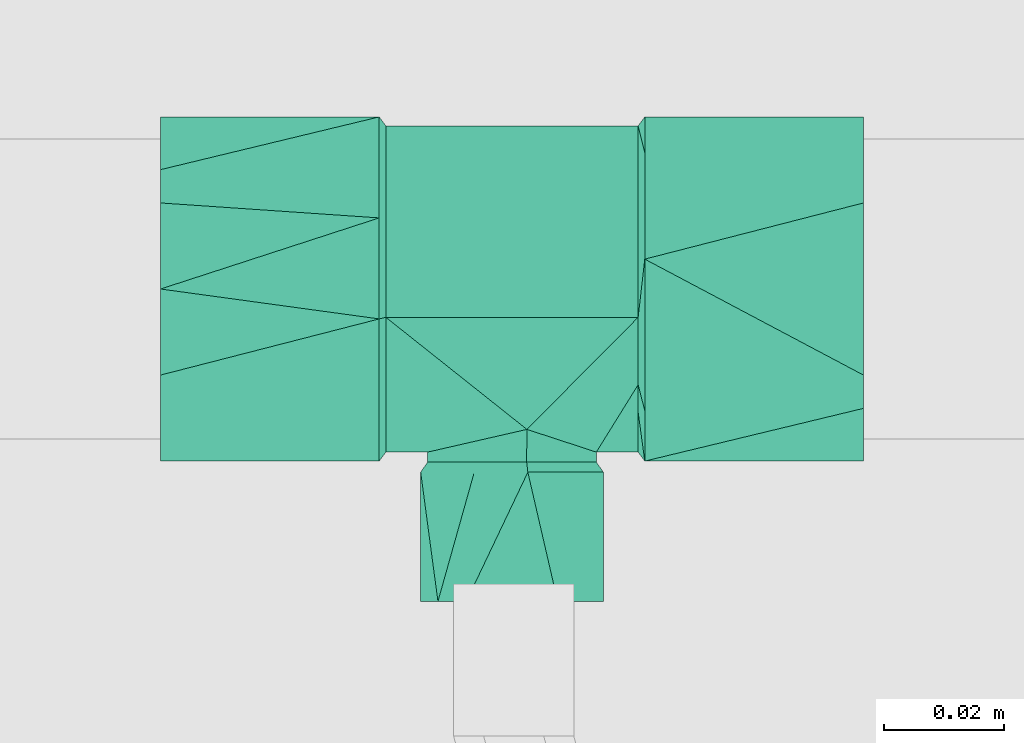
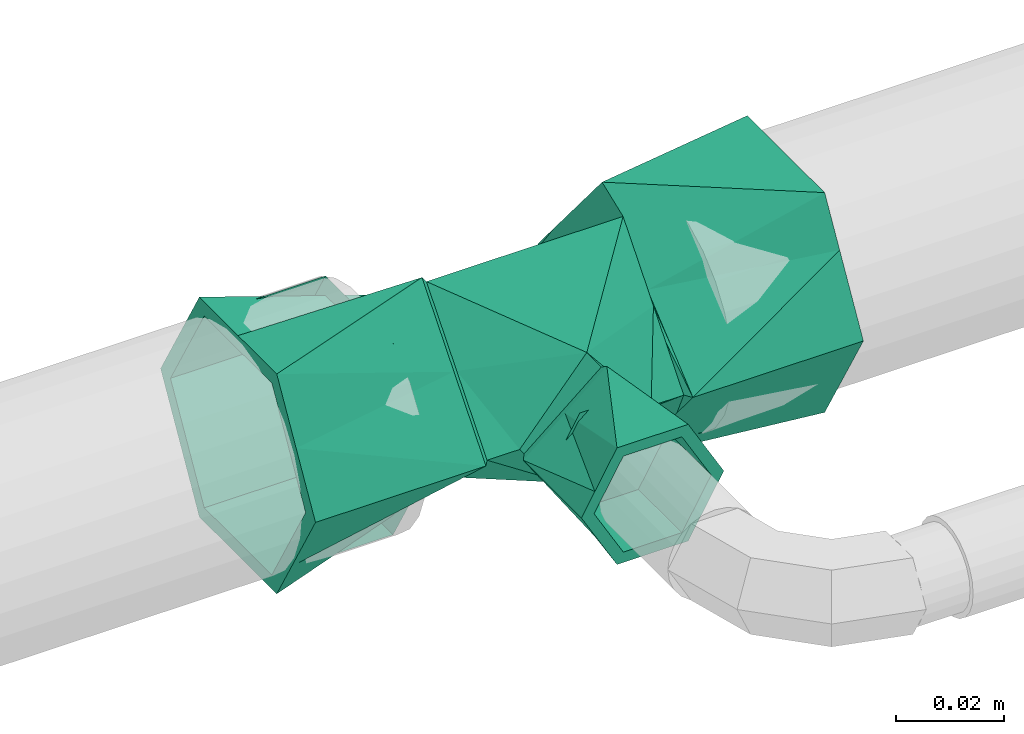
# One storey, part 95 of 166: 1 flow fitting.
"""IFC2X3 building model written with IfcOpenShell, lengths in metres."""

from ifc_helpers import new_model, entity, si_unit, converted_unit, direction, frame, origin, place, context, subcontext, project, spatial, faceted_brep, source, transform, mapped, material, type_object, type_shapes, element, save


model = new_model("IFC2X3")

# Units and contexts
model_context = context("Model", 3, precision=1e-05, world=origin(), true_north=direction((6.123233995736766e-17, 1.0)))
body_context = subcontext(model_context, "Body", "Model", "MODEL_VIEW")
ifc_project = project(units=[si_unit("LENGTHUNIT", "METRE"), converted_unit("PLANEANGLEUNIT", "DEGREE", entity("IfcPlaneAngleMeasure", 0.017453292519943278), si_unit("PLANEANGLEUNIT", "RADIAN"), dimensions=[0, 0, 0, 0, 0, 0, 0]), si_unit("AREAUNIT", "SQUARE_METRE")], contexts=[model_context])

# Site, building, storey
site_placement = place(None, origin())
site = spatial("IfcSite", under=ifc_project, at=site_placement, Name="Default", CompositionType="ELEMENT")
building_placement = place(site_placement, origin())
building = spatial("IfcBuilding", under=site, at=building_placement, Name="CASA DE ACOLHIDA PARA IDOSOS", CompositionType="ELEMENT")
storey_placement = place(building_placement, frame((0.0, 0.0, -1.7499999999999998)))
storey = spatial("IfcBuildingStorey", under=building, at=storey_placement, Name="IMPLANTAÇÃO DRENAGEM", CompositionType="ELEMENT", Elevation=-1.7499999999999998)

# Flow fitting
ifc_material = material(Name="PVC Branco")
pipe_fitting_type = type_object("IfcPipeFittingType", Name="AF_Roscavel_Te_Reducao:Standard", PredefinedType="NOTDEFINED", material=ifc_material)
shared_shape = source(origin(), body_context, "Body", "Brep", [
    faceted_brep([(-0.022099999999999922, 0.022730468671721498, -0.007053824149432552), (-0.022099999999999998, 0.028649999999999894, 0.0), (-0.021, 0.027149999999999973, 0.0), (-0.02099999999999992, 0.019184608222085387, -0.006684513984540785), (-0.020999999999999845, 0.011219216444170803, -0.013369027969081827), (-0.022099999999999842, 0.0168109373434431, -0.014107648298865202), (-0.020999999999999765, 0.0032538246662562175, -0.02005354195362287), (-0.022099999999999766, 0.010891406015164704, -0.02116147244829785), (-0.020999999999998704, -0.015930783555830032, -0.013369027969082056), (-0.022099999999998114, -0.020244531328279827, -0.007053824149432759), (-0.022099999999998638, -0.01183906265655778, -0.01410764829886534), (-0.020999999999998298, -0.02051095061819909, -0.007911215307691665), (-0.02209999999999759, -0.02865000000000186, 0.0), (-0.020999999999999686, -0.004711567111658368, -0.02673805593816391), (-0.02209999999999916, -0.0034335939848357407, -0.021161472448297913), (-0.022099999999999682, 0.004971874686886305, -0.028215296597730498), (-0.020999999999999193, -0.010321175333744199, -0.02005354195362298), (-0.02099999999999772, -0.027150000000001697, 0.0), (-0.02210000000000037, -0.022732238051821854, 0.007053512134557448), (-0.021000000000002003, -0.019182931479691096, 0.006684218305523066), (-0.021000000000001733, -0.011215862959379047, 0.013368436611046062), (-0.022100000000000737, -0.0168144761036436, 0.014107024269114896), (-0.021000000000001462, -0.0032487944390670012, 0.020052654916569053), (-0.022100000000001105, -0.010896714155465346, 0.021160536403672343), (-0.022100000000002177, 0.020242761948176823, 0.007053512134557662), (-0.02100000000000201, 0.021542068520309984, 0.006684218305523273), (-0.022100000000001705, 0.0034282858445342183, 0.021160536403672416), (-0.021000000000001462, 0.010326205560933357, 0.020052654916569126), (-0.022100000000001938, 0.01183552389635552, 0.014107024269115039), (-0.021000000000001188, 0.004718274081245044, 0.02673687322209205), (-0.022100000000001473, -0.004978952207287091, 0.028214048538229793), (-0.021000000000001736, 0.01593413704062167, 0.013368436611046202), (-0.02099999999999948, 0.018449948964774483, 0.010369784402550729), (0.021, 0.027149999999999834, 0.0), (0.021000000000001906, 0.004718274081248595, 0.026736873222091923), (0.021000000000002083, 0.010326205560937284, 0.02005265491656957), (0.021000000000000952, 0.015934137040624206, 0.013368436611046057), (0.021000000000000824, 0.020511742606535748, 0.007912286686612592), (0.021, -0.027150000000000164, 0.0), (0.0024774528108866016, -0.023369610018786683, 0.013819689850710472), (0.008258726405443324, -0.025259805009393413, 0.006909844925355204), (0.014040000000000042, -0.027150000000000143, 0.0), (-0.014039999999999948, -0.02715000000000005, 0.0), (-0.008913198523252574, -0.02597661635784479, 0.004289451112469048), (-0.0057812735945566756, -0.02525980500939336, 0.0069098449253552), (0.021000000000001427, -0.01918293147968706, 0.006684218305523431), (0.021000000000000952, -0.011215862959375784, 0.013368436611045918), (0.02100000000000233, -0.00324879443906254, 0.020052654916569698), (0.02099999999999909, 0.019607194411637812, -0.006329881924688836), (0.020999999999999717, 0.011219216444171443, -0.013369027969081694), (0.02099999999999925, 0.003253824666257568, -0.02005354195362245), (0.020999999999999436, -0.004711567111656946, -0.02673805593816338), (-0.0024814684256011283, -0.023370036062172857, -0.013818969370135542), (0.020999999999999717, -0.015930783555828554, -0.013369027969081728), (0.008912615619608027, -0.025976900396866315, -0.004288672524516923), (0.005779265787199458, -0.025260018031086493, -0.006909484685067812), (-0.00826073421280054, -0.025260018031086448, -0.006909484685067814), (0.020999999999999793, -0.020510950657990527, -0.007911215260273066), (0.020999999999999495, -0.010321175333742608, -0.020053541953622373), (0.02210000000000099, 0.01681093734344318, 0.014107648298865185), (0.022100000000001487, 0.01089140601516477, 0.021161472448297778), (0.022100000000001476, -0.012730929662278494, 0.013359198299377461), (0.022100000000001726, -0.003879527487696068, 0.020787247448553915), (0.022100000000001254, -0.020690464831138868, 0.006679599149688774), (0.022100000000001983, 0.004971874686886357, 0.02821529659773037), (0.0221, 0.028650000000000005, 0.0), (0.022100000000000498, 0.022730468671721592, 0.007053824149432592), (0.022100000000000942, -0.011839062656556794, 0.014107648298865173), (0.022100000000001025, -0.02864999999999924, 0.0), (0.022099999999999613, -0.009809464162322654, -0.022456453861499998), (0.022099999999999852, -0.021644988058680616, -0.008349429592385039), (0.02209999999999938, 0.0034282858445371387, -0.02116053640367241), (0.022099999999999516, -0.004978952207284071, -0.028214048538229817), (0.02209999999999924, 0.011835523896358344, -0.014107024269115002), (0.0220999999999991, 0.02024276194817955, -0.0070535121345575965), (0.02209999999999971, -0.014639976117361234, -0.01669885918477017), (0.022100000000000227, -0.016814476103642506, -0.014107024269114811), (-0.058500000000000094, -0.014325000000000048, -0.024811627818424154), (-0.058500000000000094, -0.025, 0.0), (-0.058500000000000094, -0.01997114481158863, -0.00871023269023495), (-0.0585000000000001, -0.019870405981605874, -0.015206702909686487), (-0.058500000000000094, -0.012500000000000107, -0.021650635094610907), (-0.058500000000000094, 0.0, -0.02165063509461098), (-0.058500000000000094, 0.012499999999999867, -0.021650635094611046), (-0.0585000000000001, 0.0, -0.024811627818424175), (-0.058500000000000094, -0.028650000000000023, 0.0), (-0.0585000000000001, -0.018750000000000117, 0.01082531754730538), (-0.058500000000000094, -0.012500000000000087, 0.021650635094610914), (-0.0585000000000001, -0.021487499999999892, 0.012405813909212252), (-0.058500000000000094, -0.014324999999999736, 0.02481162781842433), (-0.058500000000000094, 0.0, 0.021650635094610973), (-0.058500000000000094, 0.012499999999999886, 0.021650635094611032), (-0.0585000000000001, 0.0, 0.02481162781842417), (-0.058500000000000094, 0.014325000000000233, 0.024811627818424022), (-0.0585000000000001, 0.019870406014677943, 0.015206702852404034), (-0.058500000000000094, 0.02864999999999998, 0.0), (-0.058500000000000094, 0.019971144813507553, 0.00871023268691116), (-0.058500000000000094, 0.025, 0.0), (-0.0585000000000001, 0.021487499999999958, -0.012405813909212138), (-0.058500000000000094, 0.014324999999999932, -0.0248116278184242), (-0.058500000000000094, 0.018749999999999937, -0.010825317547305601), (0.0585000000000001, 0.021487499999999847, 0.012405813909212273), (0.058500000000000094, 0.028650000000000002, 0.0), (0.058500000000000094, -0.028650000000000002, 0.0), (0.0585000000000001, -0.01987040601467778, 0.015206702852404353), (0.0585000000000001, -0.021487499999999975, -0.012405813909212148), (0.0585000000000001, 0.019870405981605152, -0.015206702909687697), (0.058500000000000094, 0.014325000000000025, -0.024811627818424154), (0.058500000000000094, 0.024999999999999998, 0.0), (0.058500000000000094, 0.019971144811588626, -0.00871023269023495), (0.058500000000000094, 0.012500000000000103, -0.021650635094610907), (0.058500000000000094, 0.0, -0.02165063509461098), (0.058500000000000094, -0.012499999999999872, -0.021650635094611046), (0.0585000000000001, 0.0, -0.024811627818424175), (0.0585000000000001, 0.01875000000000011, 0.01082531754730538), (0.058500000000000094, 0.012500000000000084, 0.021650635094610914), (0.058500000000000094, 0.014324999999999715, 0.02481162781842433), (0.058500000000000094, 0.0, 0.021650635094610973), (0.058500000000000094, -0.012499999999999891, 0.021650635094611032), (0.0585000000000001, 0.0, 0.02481162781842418), (0.058500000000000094, -0.014325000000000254, 0.024811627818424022), (0.058500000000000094, -0.019971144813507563, 0.00871023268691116), (0.058500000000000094, -0.025000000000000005, 0.0), (0.058500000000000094, -0.014324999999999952, -0.0248116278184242), (0.058500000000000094, -0.018749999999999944, -0.010825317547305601), (-0.032600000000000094, -0.025, 0.0), (-0.032600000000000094, -0.019971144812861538, 0.00871023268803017), (-0.032600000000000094, -0.012500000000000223, 0.021650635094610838), (-0.032600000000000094, 0.0, 0.021650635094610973), (-0.032600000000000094, 0.012499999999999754, 0.02165063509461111), (-0.032600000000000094, 0.018749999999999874, 0.010825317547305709), (-0.032600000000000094, 0.025, 0.0), (-0.032600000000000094, 0.019971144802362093, -0.008710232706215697), (-0.032600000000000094, 0.012500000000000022, -0.021650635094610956), (-0.032600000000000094, 0.0, -0.02165063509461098), (-0.032600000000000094, -0.012499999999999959, -0.021650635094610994), (-0.032600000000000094, -0.018749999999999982, -0.010825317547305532), (0.03260000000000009, -0.025, 0.0), (0.032600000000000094, -0.018749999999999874, 0.010825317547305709), (0.032600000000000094, -0.012499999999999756, 0.02165063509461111), (0.032600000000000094, 0.0, 0.021650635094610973), (0.032600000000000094, 0.012500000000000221, 0.021650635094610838), (0.032600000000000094, 0.019971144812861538, 0.00871023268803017), (0.032600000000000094, 0.025, 0.0), (0.032600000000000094, 0.018749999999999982, -0.010825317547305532), (0.032600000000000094, 0.012499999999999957, -0.021650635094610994), (0.032600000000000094, 0.0, -0.02165063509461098), (0.032600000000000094, -0.012500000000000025, -0.021650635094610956), (0.032600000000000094, -0.019971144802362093, -0.008710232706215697), (0.012500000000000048, -0.03589999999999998, 0.0), (0.006250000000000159, -0.035899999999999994, 0.010825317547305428), (-0.0062499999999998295, -0.03590000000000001, 0.010825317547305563), (-0.012499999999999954, -0.03590000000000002, 0.0), (-0.006249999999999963, -0.03590000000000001, -0.010825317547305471), (0.006250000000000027, -0.035899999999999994, -0.01082531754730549), (0.012500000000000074, -0.05199999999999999, 0.0), (0.006250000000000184, -0.052, 0.010825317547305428), (-0.006249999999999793, -0.05200000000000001, 0.01082531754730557), (-0.01249999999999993, -0.052000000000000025, 0.0), (-0.006249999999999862, -0.05200000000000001, -0.010825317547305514), (0.006250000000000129, -0.052, -0.010825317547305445), (-0.011620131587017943, -0.028800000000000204, -0.0028835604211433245), (-0.01403999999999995, -0.02880000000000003, 0.0), (-0.002436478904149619, -0.028800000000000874, -0.013826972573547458), (-0.008238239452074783, -0.02880000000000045, -0.006913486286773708), (0.0030428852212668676, -0.028800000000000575, -0.009228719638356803), (0.014040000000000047, -0.02879999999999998, 0.0), (0.008541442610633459, -0.02880000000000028, -0.004614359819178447), (0.005801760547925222, -0.02880000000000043, -0.006913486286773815), (0.011620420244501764, -0.028799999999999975, 0.002883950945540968), (0.002439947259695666, -0.028799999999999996, 0.01382636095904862), (0.008239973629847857, -0.028799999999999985, 0.00691318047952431), (-0.0030421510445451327, -0.028800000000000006, 0.00922698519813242), (-0.008541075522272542, -0.028800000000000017, 0.004613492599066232), (-0.005800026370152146, -0.028800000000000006, 0.006913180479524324), (0.0026415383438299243, -0.030500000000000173, 0.01496870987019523), (0.008920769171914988, -0.03050000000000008, 0.007484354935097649), (0.010065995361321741, -0.030500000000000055, 0.006119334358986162), (0.015200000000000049, -0.03049999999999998, 0.0), (-0.015199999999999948, -0.03050000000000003, 0.0), (-0.006279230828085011, -0.0305000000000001, 0.007484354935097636), (-0.0026377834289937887, -0.030500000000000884, -0.01496937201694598), (-0.008918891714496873, -0.03050000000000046, -0.007484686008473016), (-0.010065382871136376, -0.030500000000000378, -0.006118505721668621), (0.006281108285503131, -0.03050000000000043, -0.007484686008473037), (0.007600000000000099, -0.052, -0.01316358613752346), (0.012327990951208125, -0.05199999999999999, -0.004974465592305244), (0.0, -0.052000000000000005, -0.01316358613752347), (0.015200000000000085, -0.051999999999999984, 0.0), (0.011400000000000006, -0.05199999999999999, 0.00658179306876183), (0.007599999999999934, -0.052, 0.013163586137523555), (0.0, -0.052000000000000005, 0.013163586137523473), (-0.007600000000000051, -0.05200000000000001, 0.01316358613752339), (-0.012327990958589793, -0.052000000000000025, 0.00497446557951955), (-0.015199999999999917, -0.05200000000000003, 0.0), (-0.011399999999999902, -0.052000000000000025, -0.006581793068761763), (-0.007599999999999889, -0.05200000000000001, -0.013163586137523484)], [[[0, 1, 2]], [[3, 4, 5]], [[6, 7, 4]], [[8, 9, 10]], [[11, 12, 9]], [[13, 14, 15]], [[14, 16, 10]], [[16, 14, 13]], [[2, 3, 0]], [[9, 8, 11]], [[11, 17, 12]], [[7, 6, 15]], [[6, 13, 15]], [[5, 4, 7]], [[16, 8, 10]], [[3, 5, 0]], [[18, 12, 17]], [[19, 20, 21]], [[22, 23, 20]], [[1, 24, 25]], [[25, 2, 1]], [[26, 27, 28]], [[29, 26, 30]], [[27, 26, 29]], [[17, 19, 18]], [[23, 22, 30]], [[24, 28, 31]], [[22, 29, 30]], [[21, 20, 23]], [[27, 31, 28]], [[19, 21, 18]], [[24, 31, 32, 25]], [[33, 2, 25, 32, 31, 27, 29, 34, 35, 36, 37]], [[38, 39, 40, 41]], [[20, 42, 43, 44, 39]], [[39, 38, 45, 46]], [[20, 39, 46]], [[34, 29, 22, 20, 46, 47]], [[42, 20, 19, 17]], [[4, 3, 2, 33, 48, 49, 50, 51, 13, 6]], [[51, 52, 13]], [[53, 41, 54, 55, 52]], [[8, 52, 56, 42]], [[42, 17, 11, 8]], [[41, 53, 57, 38]], [[52, 51, 58, 53]], [[52, 8, 16, 13]], [[36, 35, 59, 37]], [[34, 60, 35]], [[46, 45, 61]], [[47, 46, 62]], [[38, 63, 45]], [[64, 34, 47]], [[65, 33, 66]], [[60, 34, 64]], [[46, 61, 67, 62]], [[64, 47, 62]], [[33, 37, 66]], [[37, 59, 66]], [[63, 38, 68]], [[63, 61, 45]], [[60, 59, 35]], [[51, 69, 58]], [[68, 38, 70]], [[51, 71, 72]], [[73, 49, 74]], [[75, 53, 58]], [[33, 65, 48]], [[50, 73, 71]], [[53, 75, 76, 70]], [[48, 74, 49]], [[73, 50, 49]], [[51, 50, 71]], [[38, 57, 53, 70]], [[48, 65, 74]], [[69, 51, 72]], [[69, 75, 58]], [[77, 78, 79]], [[78, 77, 80]], [[77, 79, 81]], [[77, 81, 82]], [[77, 82, 83]], [[83, 84, 77]], [[78, 80, 85]], [[85, 86, 78]], [[85, 87, 86]], [[87, 85, 88]], [[87, 88, 89]], [[89, 90, 87]], [[89, 91, 90]], [[91, 89, 92]], [[91, 92, 93]], [[91, 93, 94]], [[91, 94, 95]], [[95, 96, 91]], [[95, 97, 96]], [[97, 95, 98]], [[97, 98, 99]], [[99, 83, 100]], [[83, 99, 84]], [[99, 100, 97]], [[28, 94, 93]], [[94, 28, 24, 1]], [[1, 95, 94]], [[65, 101, 102]], [[12, 88, 85]], [[68, 103, 104]], [[89, 21, 23, 30]], [[21, 89, 88]], [[88, 12, 18, 21]], [[92, 30, 26, 28]], [[30, 92, 89]], [[28, 93, 92]], [[10, 80, 77]], [[80, 10, 9, 12]], [[12, 85, 80]], [[68, 105, 103]], [[1, 98, 95]], [[65, 102, 106]], [[99, 5, 7, 15]], [[5, 99, 98]], [[98, 1, 0, 5]], [[15, 77, 84, 99]], [[77, 15, 14, 10]], [[107, 108, 109]], [[108, 107, 106]], [[107, 109, 110]], [[107, 110, 111]], [[107, 111, 112]], [[112, 113, 107]], [[108, 106, 102]], [[102, 114, 108]], [[102, 115, 114]], [[115, 102, 101]], [[115, 101, 116]], [[116, 117, 115]], [[116, 118, 117]], [[118, 116, 119]], [[118, 119, 120]], [[118, 120, 104]], [[118, 104, 103]], [[103, 121, 118]], [[103, 122, 121]], [[122, 103, 105]], [[122, 105, 123]], [[123, 112, 124]], [[112, 123, 113]], [[123, 124, 122]], [[67, 104, 120]], [[104, 67, 61, 63, 68]], [[116, 59, 60, 64]], [[59, 116, 101]], [[101, 65, 66, 59]], [[64, 120, 119, 116]], [[120, 64, 62, 67]], [[73, 106, 107]], [[106, 73, 74, 65]], [[123, 76, 75, 69, 72]], [[76, 123, 105]], [[105, 68, 70, 76]], [[113, 72, 71, 73]], [[72, 113, 123]], [[73, 107, 113]], [[125, 126, 127, 128, 129, 130, 131, 132, 133, 134, 135, 136]], [[87, 127, 126, 125, 78, 86]], [[137, 138, 139, 118, 121, 122]], [[129, 128, 127, 87, 90, 91]], [[139, 140, 141, 115, 117, 118]], [[131, 130, 129, 91, 96, 97]], [[115, 141, 142, 143, 108, 114]], [[83, 133, 132, 131, 97, 100]], [[143, 144, 145, 110, 109, 108]], [[135, 134, 133, 83, 82, 81]], [[145, 146, 147, 112, 111, 110]], [[125, 136, 135, 81, 79, 78]], [[112, 147, 148, 137, 122, 124]], [[143, 142, 141, 140, 139, 138, 137, 148, 147, 146, 145, 144]], [[149, 150, 151, 152, 153, 154]], [[155, 156, 150, 149]], [[156, 157, 151, 150]], [[157, 158, 152, 151]], [[158, 159, 153, 152]], [[159, 160, 154, 153]], [[160, 155, 149, 154]], [[42, 161, 162]], [[56, 163, 164, 161]], [[163, 56, 52]], [[165, 163, 52]], [[166, 167, 41]], [[55, 167, 168, 165]], [[55, 54, 41, 167]], [[165, 52, 55]], [[56, 161, 42]], [[41, 169, 166]], [[40, 170, 171, 169]], [[170, 40, 39]], [[172, 170, 39]], [[162, 173, 42]], [[44, 173, 174, 172]], [[44, 43, 42, 173]], [[172, 39, 44]], [[40, 169, 41]], [[175, 176, 177, 178, 166, 169, 171, 170]], [[170, 172, 174, 173, 162, 179, 180, 175]], [[181, 182, 183, 179, 162, 161, 164, 163]], [[163, 165, 168, 167, 166, 178, 184, 181]], [[185, 155, 160]], [[155, 185, 186]], [[185, 160, 159]], [[159, 187, 185]], [[155, 186, 188]], [[156, 155, 188]], [[156, 188, 189]], [[156, 189, 190]], [[156, 190, 157]], [[157, 190, 191]], [[157, 191, 192]], [[157, 192, 193]], [[157, 193, 194]], [[194, 158, 157]], [[158, 194, 195]], [[158, 195, 196]], [[196, 159, 158]], [[159, 196, 187]], [[180, 193, 192]], [[180, 179, 193]], [[179, 194, 193]], [[178, 189, 188]], [[175, 190, 176]], [[176, 190, 189]], [[189, 178, 177, 176]], [[180, 191, 175]], [[175, 191, 190]], [[180, 192, 191]], [[184, 186, 185]], [[184, 178, 186]], [[178, 188, 186]], [[179, 195, 194]], [[181, 196, 182]], [[182, 196, 195]], [[195, 179, 183, 182]], [[181, 185, 187, 196]], [[181, 184, 185]]]),
])
type_shapes(pipe_fitting_type, [shared_shape])
flow_fitting_placement = place(storey_placement, frame((-31.990948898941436, 22.85494207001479, -0.19999999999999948), z_axis=(0.0, 0.0, -1.0), x_axis=(-1.0, 0.0, 0.0)))
element("IfcFlowFitting", 1, at=flow_fitting_placement, inside=storey, type_object=pipe_fitting_type, material=ifc_material, Name="AF_Roscavel_Te_Reducao:Standard", ObjectType="AF_Roscavel_Te_Reducao:Standard", context=body_context, shape_type="MappedRepresentation", body=[
    mapped(shared_shape, transform((0.0, 0.0, 0.0), scale=1.0)),
])

save(model, "model.ifc")
